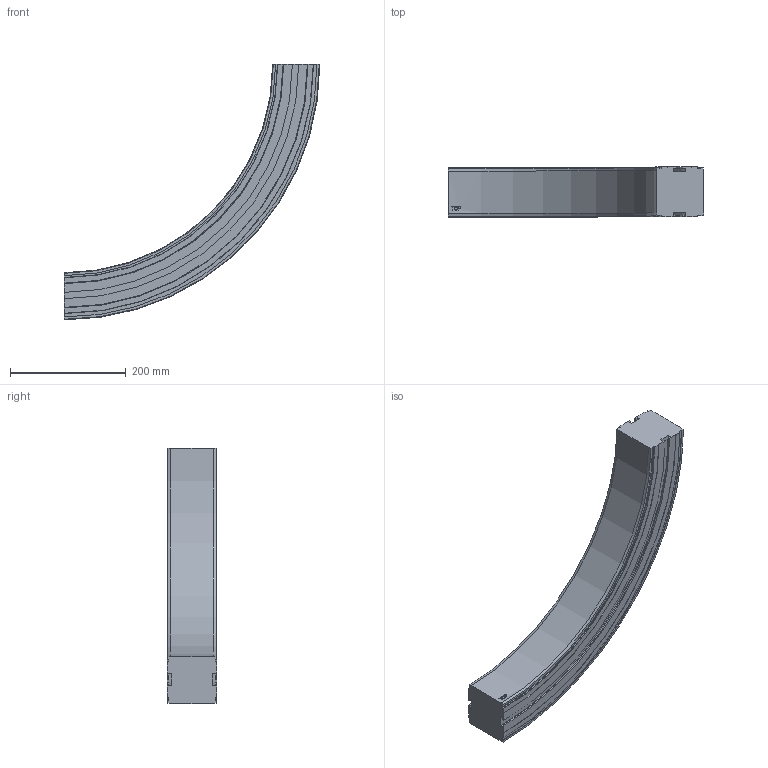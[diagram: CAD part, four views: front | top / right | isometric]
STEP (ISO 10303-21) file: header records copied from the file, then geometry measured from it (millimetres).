
FILE_DESCRIPTION((''),'2;1');
FILE_NAME('C:\Vault Klient\Projekt\Koncept konstruktion\Serie 830 Balk\830-5640_UP.stp','2009-11-27T10:54:15',('Mathias'),(''),'Autodesk Inventor 2010','Autodesk Inventor 2010','');
FILE_SCHEMA(('AUTOMOTIVE_DESIGN { 1 0 10303 214 1 1 1 1 }'));
Length unit declared in the file: millimetre
Products named in the file (1): 830-5640_UP
Bounding box: 442 x 86 x 442 mm (x, y, z)
Volume: 4189325.4 mm3; surface area: 270677 mm2
Topology: 1 solids, 1 shells, 93 faces, 258 edges, 172 vertices
Faces by surface type: plane 40, cylinder 23, bspline 14, cone 12, torus 4
Entity records: 3384 total; most frequent: CARTESIAN_POINT 949, ORIENTED_EDGE 516, DIRECTION 472, EDGE_CURVE 258, VERTEX_POINT 172, AXIS2_PLACEMENT_3D 162, VECTOR 148, LINE 148
